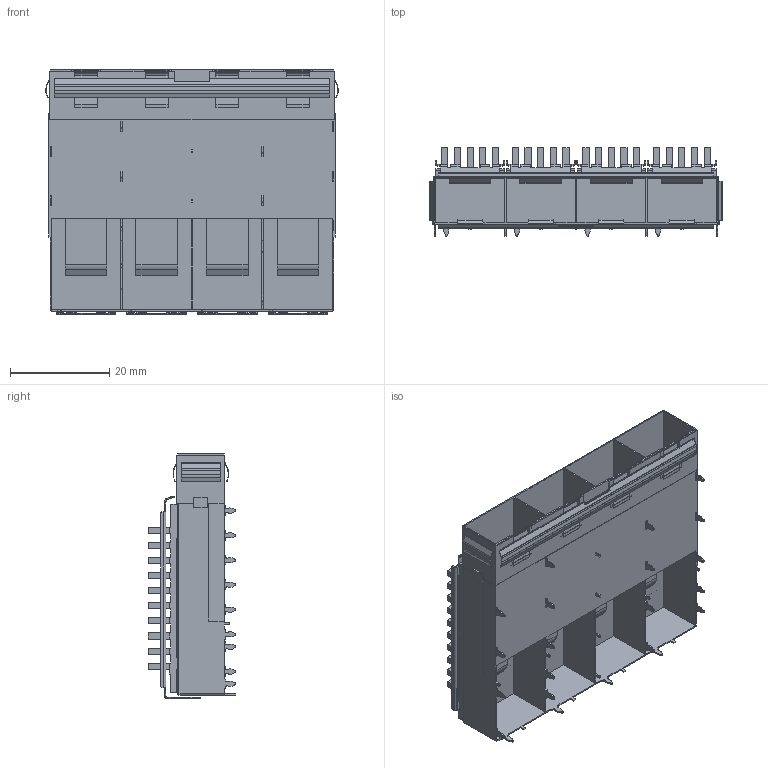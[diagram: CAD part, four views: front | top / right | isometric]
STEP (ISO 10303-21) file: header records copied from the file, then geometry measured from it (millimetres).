
FILE_DESCRIPTION (( 'STEP AP203' ), '1' );
FILE_NAME ('SFP+ 1X4短鱼眼无月牙-散热器15.8_3D.STEP', '2024-08-03T01:36:45', ( '' ), ( '' ), 'SwSTEP 2.0', 'SolidWorks 2018', '' );
FILE_SCHEMA (( 'CONFIG_CONTROL_DESIGN' ));
Products named in the file (1): SFP+ 1X4短鱼眼无月牙-散热器15.8_3D
Bounding box: 59.05 x 17.75 x 49.42 mm (x, y, z)
Volume: 7348.8 mm3; surface area: 24543.9 mm2
Topology: 5 solids, 5 shells, 2362 faces, 7068 edges, 4701 vertices
Faces by surface type: plane 1809, cylinder 519, bspline 32, sphere 2
Entity records: 79237 total; most frequent: CARTESIAN_POINT 14754, ORIENTED_EDGE 14132, DIRECTION 12654, EDGE_CURVE 7066, LINE 5916, VECTOR 5916, VERTEX_POINT 4701, AXIS2_PLACEMENT_3D 3369
